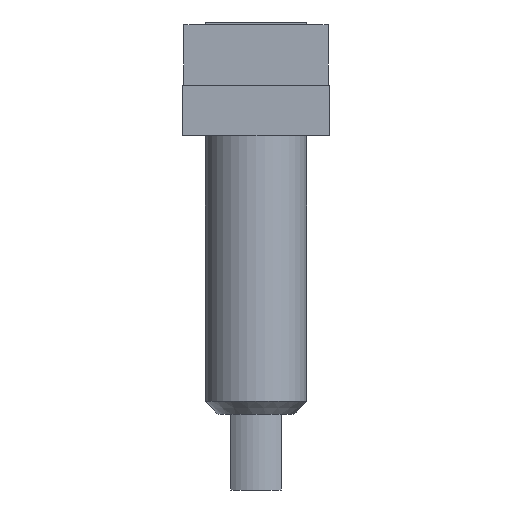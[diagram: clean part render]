
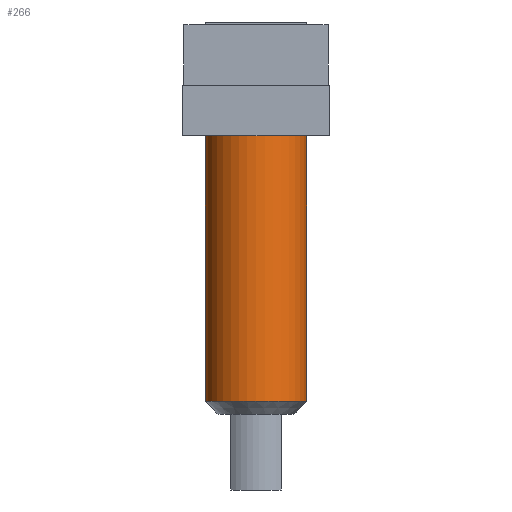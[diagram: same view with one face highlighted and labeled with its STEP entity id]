
A CAD part, left-side view. The second image highlights one B-rep face of the part: STEP entity #266.
In plain terms, the highlighted cylindrical face has radius 2 mm (diameter 4 mm), a full revolution.
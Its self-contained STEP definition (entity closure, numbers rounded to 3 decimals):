
#266=ADVANCED_FACE('',(#513,#515),#517,.T.);
#513=FACE_OUTER_BOUND('',#514,.T.);
#514=EDGE_LOOP('',(#864));
#515=FACE_OUTER_BOUND('',#516,.T.);
#516=EDGE_LOOP('',(#865));
#517=CYLINDRICAL_SURFACE('',#518,2.);
#518=AXIS2_PLACEMENT_3D('',#519,#520,#521);
#519=CARTESIAN_POINT('',(0.,0.,-1.6));
#520=DIRECTION('',(0.,0.,-1.));
#521=DIRECTION('',(0.,1.,0.));
#864=ORIENTED_EDGE('',*,*,#1090,.T.);
#865=ORIENTED_EDGE('',*,*,#1091,.F.);
#1090=EDGE_CURVE('',#1301,#1301,#1302,.T.);
#1091=EDGE_CURVE('',#1303,#1303,#1304,.T.);
#1301=VERTEX_POINT('',#1584);
#1302=CIRCLE('',#1585,2.);
#1303=VERTEX_POINT('',#1589);
#1304=CIRCLE('',#1590,2.);
#1584=CARTESIAN_POINT('',(0.,2.,0.));
#1585=AXIS2_PLACEMENT_3D('',#1586,#1587,#1588);
#1586=CARTESIAN_POINT('',(0.,0.,0.));
#1587=DIRECTION('',(-0.,-0.,-1.));
#1588=DIRECTION('',(0.,1.,0.));
#1589=CARTESIAN_POINT('',(0.,2.,-10.5));
#1590=AXIS2_PLACEMENT_3D('',#1591,#1592,#1593);
#1591=CARTESIAN_POINT('',(0.,0.,-10.5));
#1592=DIRECTION('',(0.,0.,-1.));
#1593=DIRECTION('',(0.,1.,0.));
